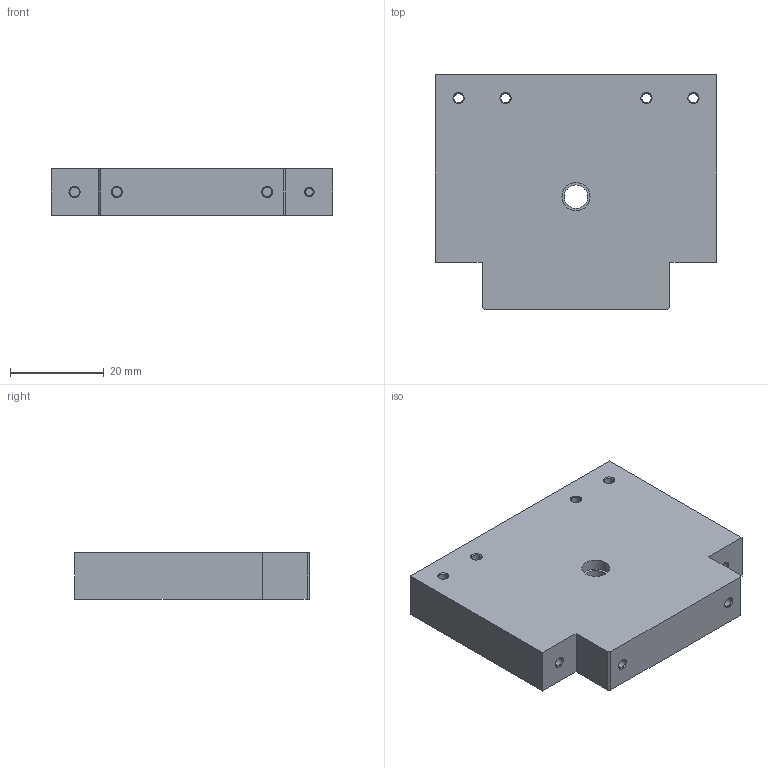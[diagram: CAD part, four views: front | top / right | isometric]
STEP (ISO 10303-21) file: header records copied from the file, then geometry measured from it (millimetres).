
FILE_DESCRIPTION (( 'STEP AP214' ), '1' );
FILE_NAME ('C3_.STEP', '2016-02-27T12:36:58', ( '' ), ( '' ), 'SwSTEP 2.0', 'SolidWorks 2012', '' );
FILE_SCHEMA (( 'AUTOMOTIVE_DESIGN' ));
Length unit declared in the file: millimetre
Products named in the file (1): C3_
Bounding box: 60 x 50 x 10 mm (x, y, z)
Volume: 27347 mm3; surface area: 8426.3 mm2
Topology: 1 solids, 1 shells, 104 faces, 258 edges, 162 vertices
Faces by surface type: cone 30, cylinder 27, plane 25, bspline 22
Entity records: 4220 total; most frequent: CARTESIAN_POINT 1791, ORIENTED_EDGE 516, DIRECTION 452, EDGE_CURVE 258, AXIS2_PLACEMENT_3D 163, VERTEX_POINT 162, LINE 126, VECTOR 126
